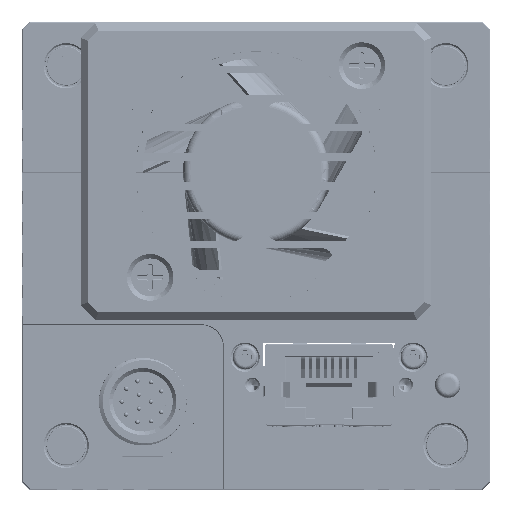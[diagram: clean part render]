
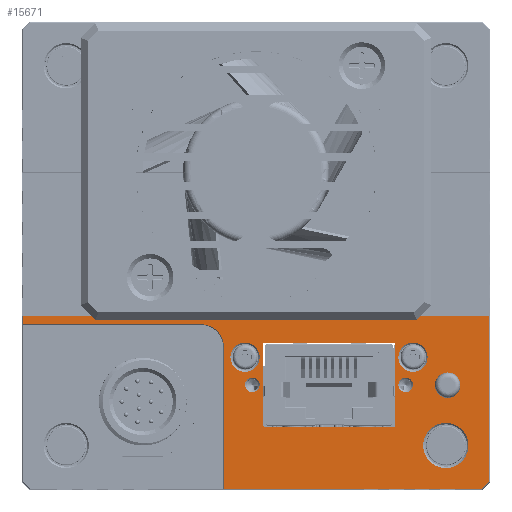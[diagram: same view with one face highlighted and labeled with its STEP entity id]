
A CAD part, top view. The second image highlights one B-rep face of the part: STEP entity #15671.
In plain terms, the highlighted planar face has unit normal (0, 0, 1).
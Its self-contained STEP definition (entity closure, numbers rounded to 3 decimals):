
#13134=PLANE('',#62836);
#15671=ADVANCED_FACE('',(#17912,#17913,#17914,#17915,#17916,#17917,#17918,
#17919),#13134,.T.);
#17912=FACE_BOUND('',#20516,.T.);
#17913=FACE_BOUND('',#20517,.T.);
#17914=FACE_BOUND('',#20518,.T.);
#17915=FACE_BOUND('',#20519,.T.);
#17916=FACE_BOUND('',#20520,.T.);
#17917=FACE_BOUND('',#20521,.T.);
#17918=FACE_BOUND('',#20522,.T.);
#17919=FACE_BOUND('',#20523,.T.);
#20516=EDGE_LOOP('',(#30657));
#20517=EDGE_LOOP('',(#30658));
#20518=EDGE_LOOP('',(#30659));
#20519=EDGE_LOOP('',(#30660,#30661,#30662,#30663,#30664,#30665,#30666,#30667));
#20520=EDGE_LOOP('',(#30668));
#20521=EDGE_LOOP('',(#30669));
#20522=EDGE_LOOP('',(#30670));
#20523=EDGE_LOOP('',(#30671,#30672,#30673,#30674,#30675,#30676,#30677,#30678));
#30657=ORIENTED_EDGE('',*,*,#44898,.F.);
#30658=ORIENTED_EDGE('',*,*,#44899,.T.);
#30659=ORIENTED_EDGE('',*,*,#44900,.T.);
#30660=ORIENTED_EDGE('',*,*,#44901,.T.);
#30661=ORIENTED_EDGE('',*,*,#44902,.T.);
#30662=ORIENTED_EDGE('',*,*,#44903,.T.);
#30663=ORIENTED_EDGE('',*,*,#44904,.F.);
#30664=ORIENTED_EDGE('',*,*,#44905,.T.);
#30665=ORIENTED_EDGE('',*,*,#44906,.T.);
#30666=ORIENTED_EDGE('',*,*,#44907,.T.);
#30667=ORIENTED_EDGE('',*,*,#44908,.T.);
#30668=ORIENTED_EDGE('',*,*,#44909,.T.);
#30669=ORIENTED_EDGE('',*,*,#44910,.T.);
#30670=ORIENTED_EDGE('',*,*,#44911,.T.);
#30671=ORIENTED_EDGE('',*,*,#44683,.F.);
#30672=ORIENTED_EDGE('',*,*,#44912,.T.);
#30673=ORIENTED_EDGE('',*,*,#44786,.F.);
#30674=ORIENTED_EDGE('',*,*,#44913,.T.);
#30675=ORIENTED_EDGE('',*,*,#44692,.F.);
#30676=ORIENTED_EDGE('',*,*,#44914,.T.);
#30677=ORIENTED_EDGE('',*,*,#44677,.F.);
#30678=ORIENTED_EDGE('',*,*,#44915,.T.);
#38556=VERTEX_POINT('',#194827);
#38557=VERTEX_POINT('',#194829);
#38562=VERTEX_POINT('',#194840);
#38563=VERTEX_POINT('',#194842);
#38566=VERTEX_POINT('',#194850);
#38571=VERTEX_POINT('',#194859);
#38646=VERTEX_POINT('',#195057);
#38647=VERTEX_POINT('',#195059);
#38731=VERTEX_POINT('',#195277);
#38732=VERTEX_POINT('',#195279);
#38733=VERTEX_POINT('',#195281);
#38734=VERTEX_POINT('',#195283);
#38735=VERTEX_POINT('',#195284);
#38736=VERTEX_POINT('',#195286);
#38737=VERTEX_POINT('',#195288);
#38738=VERTEX_POINT('',#195290);
#38739=VERTEX_POINT('',#195292);
#38740=VERTEX_POINT('',#195294);
#38741=VERTEX_POINT('',#195296);
#38742=VERTEX_POINT('',#195299);
#38743=VERTEX_POINT('',#195301);
#38744=VERTEX_POINT('',#195303);
#44677=EDGE_CURVE('',#38556,#38557,#53264,.T.);
#44683=EDGE_CURVE('',#38562,#38563,#53270,.T.);
#44692=EDGE_CURVE('',#38571,#38566,#53279,.T.);
#44786=EDGE_CURVE('',#38646,#38647,#53338,.T.);
#44898=EDGE_CURVE('',#38731,#38731,#48231,.T.);
#44899=EDGE_CURVE('',#38732,#38732,#48232,.T.);
#44900=EDGE_CURVE('',#38733,#38733,#48233,.T.);
#44901=EDGE_CURVE('',#38734,#38735,#53434,.T.);
#44902=EDGE_CURVE('',#38735,#38736,#53435,.T.);
#44903=EDGE_CURVE('',#38736,#38737,#53436,.T.);
#44904=EDGE_CURVE('',#38738,#38737,#53437,.T.);
#44905=EDGE_CURVE('',#38738,#38739,#53438,.T.);
#44906=EDGE_CURVE('',#38739,#38740,#53439,.T.);
#44907=EDGE_CURVE('',#38740,#38741,#48234,.T.);
#44908=EDGE_CURVE('',#38741,#38734,#53440,.T.);
#44909=EDGE_CURVE('',#38742,#38742,#48235,.T.);
#44910=EDGE_CURVE('',#38743,#38743,#48236,.T.);
#44911=EDGE_CURVE('',#38744,#38744,#48237,.T.);
#44912=EDGE_CURVE('',#38562,#38647,#48238,.T.);
#44913=EDGE_CURVE('',#38646,#38566,#48239,.T.);
#44914=EDGE_CURVE('',#38571,#38557,#48240,.T.);
#44915=EDGE_CURVE('',#38556,#38563,#48241,.T.);
#48231=CIRCLE('',#62825,1.75);
#48232=CIRCLE('',#62826,1.);
#48233=CIRCLE('',#62827,1.);
#48234=CIRCLE('',#62828,3.1);
#48235=CIRCLE('',#62829,2.);
#48236=CIRCLE('',#62830,2.);
#48237=CIRCLE('',#62831,3.1);
#48238=CIRCLE('',#62832,0.2);
#48239=CIRCLE('',#62833,0.2);
#48240=CIRCLE('',#62834,0.2);
#48241=CIRCLE('',#62835,0.2);
#53264=LINE('',#194828,#58362);
#53270=LINE('',#194841,#58368);
#53279=LINE('',#194860,#58377);
#53338=LINE('',#195058,#58436);
#53434=LINE('',#195282,#58532);
#53435=LINE('',#195285,#58533);
#53436=LINE('',#195287,#58534);
#53437=LINE('',#195289,#58535);
#53438=LINE('',#195291,#58536);
#53439=LINE('',#195293,#58537);
#53440=LINE('',#195297,#58538);
#58362=VECTOR('',#72571,1.);
#58368=VECTOR('',#72579,1.);
#58377=VECTOR('',#72590,1.);
#58436=VECTOR('',#72777,1.);
#58532=VECTOR('',#72955,1.);
#58533=VECTOR('',#72956,1.);
#58534=VECTOR('',#72957,1.);
#58535=VECTOR('',#72958,1.);
#58536=VECTOR('',#72959,1.);
#58537=VECTOR('',#72960,1.);
#58538=VECTOR('',#72963,1.);
#62825=AXIS2_PLACEMENT_3D('',#195276,#72949,#72950);
#62826=AXIS2_PLACEMENT_3D('',#195278,#72951,#72952);
#62827=AXIS2_PLACEMENT_3D('',#195280,#72953,#72954);
#62828=AXIS2_PLACEMENT_3D('',#195295,#72961,#72962);
#62829=AXIS2_PLACEMENT_3D('',#195298,#72964,#72965);
#62830=AXIS2_PLACEMENT_3D('',#195300,#72966,#72967);
#62831=AXIS2_PLACEMENT_3D('',#195302,#72968,#72969);
#62832=AXIS2_PLACEMENT_3D('',#195304,#72970,#72971);
#62833=AXIS2_PLACEMENT_3D('',#195305,#72972,#72973);
#62834=AXIS2_PLACEMENT_3D('',#195306,#72974,#72975);
#62835=AXIS2_PLACEMENT_3D('',#195307,#72976,#72977);
#62836=AXIS2_PLACEMENT_3D('',#195308,#72978,#72979);
#72571=DIRECTION('',(-1.,0.,0.));
#72579=DIRECTION('',(0.,1.,0.));
#72590=DIRECTION('',(0.,-1.,0.));
#72777=DIRECTION('',(1.,0.,0.));
#72949=DIRECTION('',(0.,0.,1.));
#72950=DIRECTION('',(-1.,0.,0.));
#72951=DIRECTION('',(0.,0.,-1.));
#72952=DIRECTION('',(-1.,0.,0.));
#72953=DIRECTION('',(0.,0.,-1.));
#72954=DIRECTION('',(-1.,0.,0.));
#72955=DIRECTION('',(1.,0.,0.));
#72956=DIRECTION('',(0.707,0.707,0.));
#72957=DIRECTION('',(0.,1.,0.));
#72958=DIRECTION('',(1.,0.,0.));
#72959=DIRECTION('',(0.,-1.,0.));
#72960=DIRECTION('',(1.,0.,0.));
#72961=DIRECTION('',(0.,0.,-1.));
#72962=DIRECTION('',(-1.,0.,0.));
#72963=DIRECTION('',(0.,-1.,0.));
#72964=DIRECTION('',(0.,0.,-1.));
#72965=DIRECTION('',(-1.,0.,0.));
#72966=DIRECTION('',(0.,0.,-1.));
#72967=DIRECTION('',(-1.,0.,0.));
#72968=DIRECTION('',(0.,0.,-1.));
#72969=DIRECTION('',(-1.,0.,0.));
#72970=DIRECTION('',(0.,0.,-1.));
#72971=DIRECTION('',(-1.,0.,0.));
#72972=DIRECTION('',(0.,0.,-1.));
#72973=DIRECTION('',(-1.,0.,0.));
#72974=DIRECTION('',(0.,0.,-1.));
#72975=DIRECTION('',(-1.,0.,0.));
#72976=DIRECTION('',(0.,0.,-1.));
#72977=DIRECTION('',(-1.,0.,0.));
#72978=DIRECTION('',(0.,0.,1.));
#72979=DIRECTION('',(1.,0.,0.));
#194827=CARTESIAN_POINT('',(13.356,13.381,86.289));
#194828=CARTESIAN_POINT('',(13.556,13.381,86.289));
#194829=CARTESIAN_POINT('',(-4.244,13.381,86.289));
#194840=CARTESIAN_POINT('',(13.556,1.981,86.289));
#194841=CARTESIAN_POINT('',(13.556,1.781,86.289));
#194842=CARTESIAN_POINT('',(13.556,13.181,86.289));
#194850=CARTESIAN_POINT('',(-4.444,1.981,86.289));
#194859=CARTESIAN_POINT('',(-4.444,13.181,86.289));
#194860=CARTESIAN_POINT('',(-4.444,13.381,86.289));
#195057=CARTESIAN_POINT('',(-4.244,1.781,86.289));
#195058=CARTESIAN_POINT('',(-4.444,1.781,86.289));
#195059=CARTESIAN_POINT('',(13.356,1.781,86.289));
#195276=CARTESIAN_POINT('',(20.806,7.531,86.289));
#195277=CARTESIAN_POINT('',(19.056,7.531,86.289));
#195278=CARTESIAN_POINT('',(-5.944,7.581,86.289));
#195279=CARTESIAN_POINT('',(-6.944,7.581,86.289));
#195280=CARTESIAN_POINT('',(15.056,7.581,86.289));
#195281=CARTESIAN_POINT('',(14.056,7.581,86.289));
#195282=CARTESIAN_POINT('',(-5.444,-6.619,86.289));
#195283=CARTESIAN_POINT('',(-9.844,-6.619,86.289));
#195284=CARTESIAN_POINT('',(25.514,-6.619,86.289));
#195285=CARTESIAN_POINT('',(25.985,-6.149,86.289));
#195286=CARTESIAN_POINT('',(26.456,-5.678,86.289));
#195287=CARTESIAN_POINT('',(26.456,25.281,86.289));
#195288=CARTESIAN_POINT('',(26.456,16.981,86.289));
#195289=CARTESIAN_POINT('',(-5.444,16.981,86.289));
#195290=CARTESIAN_POINT('',(-37.344,16.981,86.289));
#195291=CARTESIAN_POINT('',(-37.344,25.281,86.289));
#195292=CARTESIAN_POINT('',(-37.344,15.881,86.289));
#195293=CARTESIAN_POINT('',(-5.444,15.881,86.289));
#195294=CARTESIAN_POINT('',(-12.944,15.881,86.289));
#195295=CARTESIAN_POINT('',(-12.944,12.781,86.289));
#195296=CARTESIAN_POINT('',(-9.844,12.781,86.289));
#195297=CARTESIAN_POINT('',(-9.844,25.281,86.289));
#195298=CARTESIAN_POINT('',(-6.944,11.381,86.289));
#195299=CARTESIAN_POINT('',(-8.944,11.381,86.289));
#195300=CARTESIAN_POINT('',(16.056,11.381,86.289));
#195301=CARTESIAN_POINT('',(14.056,11.381,86.289));
#195302=CARTESIAN_POINT('',(20.556,-0.719,86.289));
#195303=CARTESIAN_POINT('',(17.456,-0.719,86.289));
#195304=CARTESIAN_POINT('',(13.356,1.981,86.289));
#195305=CARTESIAN_POINT('',(-4.244,1.981,86.289));
#195306=CARTESIAN_POINT('',(-4.244,13.181,86.289));
#195307=CARTESIAN_POINT('',(13.356,13.181,86.289));
#195308=CARTESIAN_POINT('',(-5.444,25.281,86.289));
